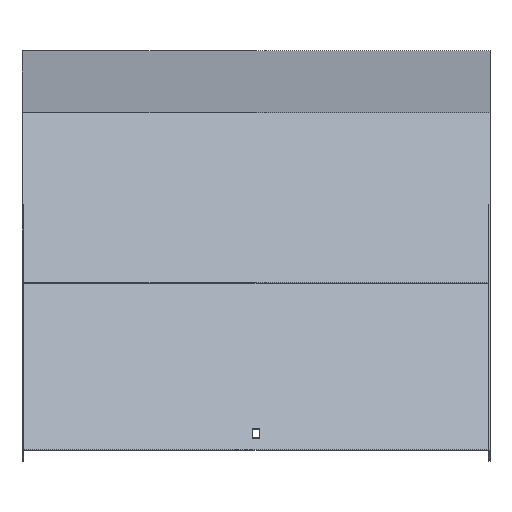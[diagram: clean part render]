
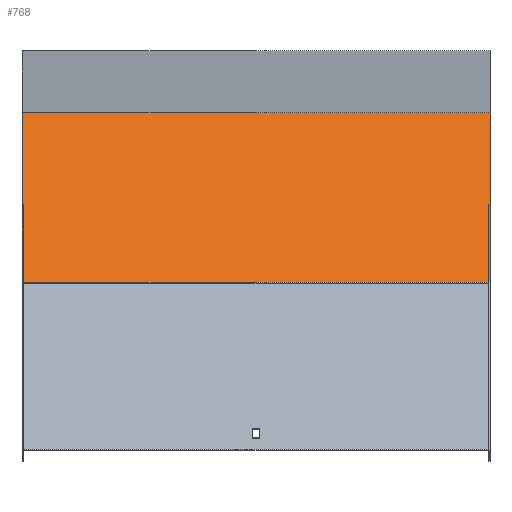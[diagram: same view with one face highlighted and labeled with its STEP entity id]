
A CAD part, top view. The second image highlights one B-rep face of the part: STEP entity #768.
In plain terms, the highlighted planar face has unit normal (0, 0.707, 0.707).
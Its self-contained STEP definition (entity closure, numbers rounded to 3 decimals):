
#24 = VERTEX_POINT ( 'NONE', #278 ) ;
#54 = EDGE_CURVE ( 'NONE', #24, #747, #575, .T. ) ;
#122 = DIRECTION ( 'NONE',  ( 0., 0.707, -0.707 ) ) ;
#141 = EDGE_CURVE ( 'NONE', #24, #818, #287, .T. ) ;
#154 = VERTEX_POINT ( 'NONE', #544 ) ;
#173 = ORIENTED_EDGE ( 'NONE', *, *, #569, .T. ) ;
#185 = LINE ( 'NONE', #496, #219 ) ;
#206 = DIRECTION ( 'NONE',  ( 0., -0.707, -0.707 ) ) ;
#219 = VECTOR ( 'NONE', #791, 1000. ) ;
#243 = CARTESIAN_POINT ( 'NONE',  ( -201.5, -37.363, 370.361 ) ) ;
#271 = CARTESIAN_POINT ( 'NONE',  ( 201.5, -37.363, 370.361 ) ) ;
#278 = CARTESIAN_POINT ( 'NONE',  ( 201.5, -33.573, 366.572 ) ) ;
#287 = LINE ( 'NONE', #983, #809 ) ;
#289 = PLANE ( 'NONE',  #438 ) ;
#438 = AXIS2_PLACEMENT_3D ( 'NONE', #271, #206, #122 ) ;
#446 = DIRECTION ( 'NONE',  ( 0., -0.707, 0.707 ) ) ;
#451 = CARTESIAN_POINT ( 'NONE',  ( 201.5, -37.363, 370.361 ) ) ;
#461 = DIRECTION ( 'NONE',  ( 0., -0.707, 0.707 ) ) ;
#484 = ORIENTED_EDGE ( 'NONE', *, *, #141, .T. ) ;
#496 = CARTESIAN_POINT ( 'NONE',  ( 201.5, -179.939, 512.937 ) ) ;
#535 = VECTOR ( 'NONE', #461, 1000. ) ;
#544 = CARTESIAN_POINT ( 'NONE',  ( -201.5, -179.939, 512.937 ) ) ;
#569 = EDGE_CURVE ( 'NONE', #818, #154, #611, .T. ) ;
#575 = LINE ( 'NONE', #451, #535 ) ;
#580 = VECTOR ( 'NONE', #446, 1000. ) ;
#599 = ORIENTED_EDGE ( 'NONE', *, *, #54, .F. ) ;
#602 = DIRECTION ( 'NONE',  ( -1., 0., 0. ) ) ;
#611 = LINE ( 'NONE', #243, #580 ) ;
#694 = EDGE_CURVE ( 'NONE', #747, #154, #185, .T. ) ;
#747 = VERTEX_POINT ( 'NONE', #820 ) ;
#768 = ADVANCED_FACE ( 'NONE', ( #974 ), #289, .F. ) ;
#785 = ORIENTED_EDGE ( 'NONE', *, *, #694, .F. ) ;
#791 = DIRECTION ( 'NONE',  ( -1., 0., 0. ) ) ;
#809 = VECTOR ( 'NONE', #602, 1000. ) ;
#818 = VERTEX_POINT ( 'NONE', #903 ) ;
#820 = CARTESIAN_POINT ( 'NONE',  ( 201.5, -179.939, 512.937 ) ) ;
#897 = EDGE_LOOP ( 'NONE', ( #173, #785, #599, #484 ) ) ;
#903 = CARTESIAN_POINT ( 'NONE',  ( -201.5, -33.573, 366.572 ) ) ;
#974 = FACE_OUTER_BOUND ( 'NONE', #897, .T. ) ;
#983 = CARTESIAN_POINT ( 'NONE',  ( 201.5, -33.573, 366.572 ) ) ;
